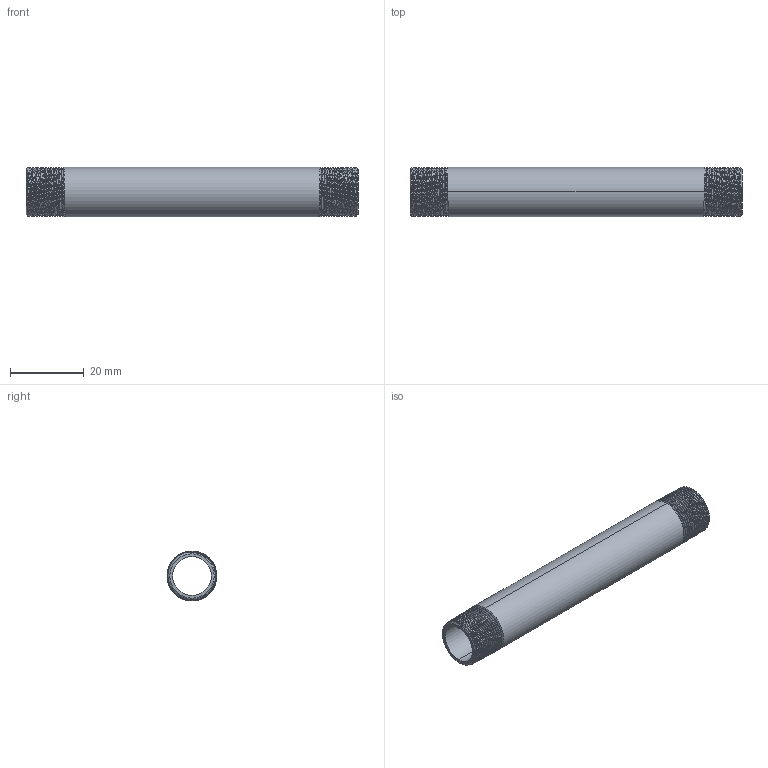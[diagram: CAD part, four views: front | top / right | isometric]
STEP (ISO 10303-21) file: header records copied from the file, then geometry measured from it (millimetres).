
FILE_DESCRIPTION (( 'STEP AP203' ), '1' );
FILE_NAME ('3D_R210_1-4x90_17185753.STEP', '2024-08-16T11:24:40', ( '' ), ( '' ), 'SwSTEP 2.0', 'SolidWorks 2024', '' );
FILE_SCHEMA (( 'CONFIG_CONTROL_DESIGN' ));
Length unit declared in the file: millimetre
Products named in the file (1): 3D_R210_1-4x90_17185753
Bounding box: 90 x 13.48 x 13.5 mm (x, y, z)
Volume: 4901.6 mm3; surface area: 7226.9 mm2
Topology: 1 solids, 1 shells, 76 faces, 216 edges, 142 vertices
Faces by surface type: cone 62, bspline 6, cylinder 4, plane 4
Entity records: 10859 total; most frequent: CARTESIAN_POINT 9099, ORIENTED_EDGE 432, DIRECTION 230, EDGE_CURVE 216, VERTEX_POINT 142, B_SPLINE_CURVE_WITH_KNOTS 130, AXIS2_PLACEMENT_3D 81, EDGE_LOOP 78
